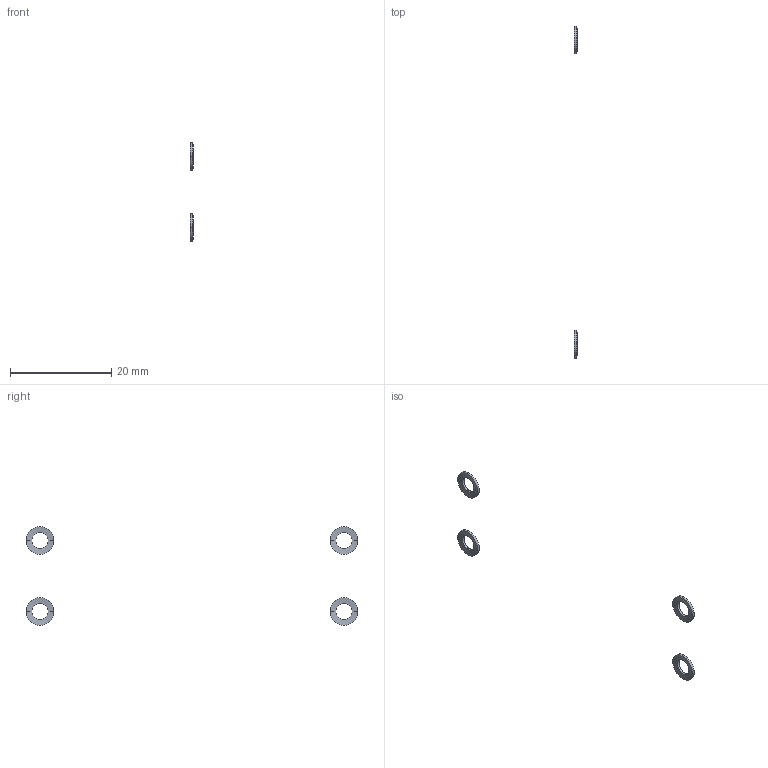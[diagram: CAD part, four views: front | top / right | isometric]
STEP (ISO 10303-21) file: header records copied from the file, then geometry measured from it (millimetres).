
FILE_DESCRIPTION(/* description */ (''),/* implementation_level */ '2;1');
FILE_NAME(/* name */ '5.y-cart#5.7#GTS3',/* time_stamp */ '2014-12-01T20:13:29+01:00',/* author */ (''),/* organization */ (''),/* preprocessor_version */ 'ST-DEVELOPER v14',/* originating_system */ '',/* authorisation */ '');
FILE_SCHEMA (('AUTOMOTIVE_DESIGN'));
Length unit declared in the file: millimetre
Products named in the file (2): Document; washer Schnorr-like, lock, M3
Assembly tree (2 placements, depth 2):
  Document
    washer Schnorr-like, lock, M3  x2
Bounding box: 0.6 x 65.5 x 19.51 mm (x, y, z)
Surface area: 176.1 mm2 (no closed solid volume)
Topology: 0 solids, 32 shells, 32 faces, 128 edges, 128 vertices
Faces by surface type: bspline 32
Entity records: 2175 total; most frequent: CARTESIAN_POINT 1061, B_SPLINE_CURVE_WITH_KNOTS 144, ORIENTED_EDGE 96, PCURVE 96, DEFINITIONAL_REPRESENTATION 96, SURFACE_CURVE 96, EDGE_CURVE 96, VERTEX_POINT 96
